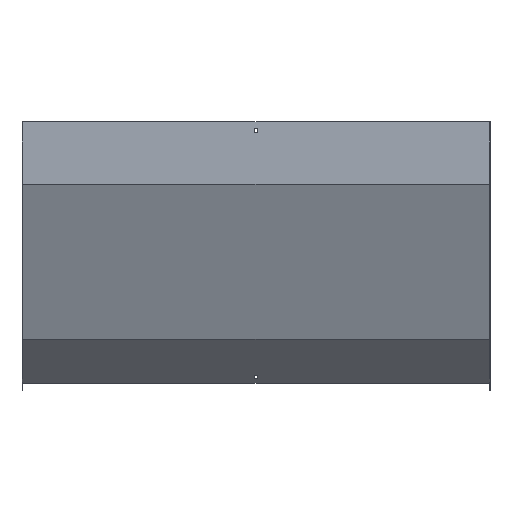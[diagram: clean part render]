
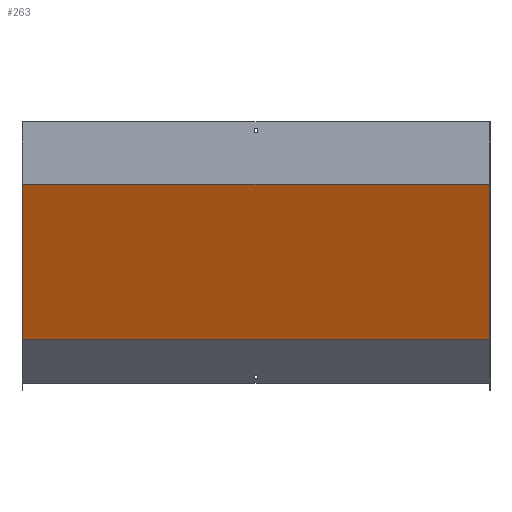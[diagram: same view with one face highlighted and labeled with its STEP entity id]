
A CAD part, front view. The second image highlights one B-rep face of the part: STEP entity #263.
In plain terms, the highlighted planar face has unit normal (0, -0.924, -0.383).
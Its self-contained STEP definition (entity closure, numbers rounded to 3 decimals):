
#15 = VECTOR ( 'NONE', #389, 1000. ) ;
#18 = ORIENTED_EDGE ( 'NONE', *, *, #816, .T. ) ;
#24 = VECTOR ( 'NONE', #199, 1000. ) ;
#29 = PLANE ( 'NONE',  #784 ) ;
#34 = DIRECTION ( 'NONE',  ( -1., 0., 0. ) ) ;
#38 = DIRECTION ( 'NONE',  ( 0., -0.383, 0.924 ) ) ;
#98 = CARTESIAN_POINT ( 'NONE',  ( 451.5, -1.5, -120.298 ) ) ;
#122 = CARTESIAN_POINT ( 'NONE',  ( 450., 122.335, -419.263 ) ) ;
#134 = VERTEX_POINT ( 'NONE', #336 ) ;
#153 = CARTESIAN_POINT ( 'NONE',  ( -450., -43.812, -18.148 ) ) ;
#187 = EDGE_CURVE ( 'NONE', #134, #454, #229, .T. ) ;
#195 = LINE ( 'NONE', #464, #15 ) ;
#199 = DIRECTION ( 'NONE',  ( -1., 0., 0. ) ) ;
#223 = VERTEX_POINT ( 'NONE', #436 ) ;
#229 = LINE ( 'NONE', #153, #424 ) ;
#263 = ADVANCED_FACE ( 'NONE', ( #350 ), #29, .F. ) ;
#267 = CARTESIAN_POINT ( 'NONE',  ( 451.5, 122.335, -419.263 ) ) ;
#271 = ORIENTED_EDGE ( 'NONE', *, *, #639, .F. ) ;
#282 = CARTESIAN_POINT ( 'NONE',  ( 451.5, -1.386, -120.574 ) ) ;
#336 = CARTESIAN_POINT ( 'NONE',  ( -450., -1.5, -120.298 ) ) ;
#350 = FACE_OUTER_BOUND ( 'NONE', #527, .T. ) ;
#389 = DIRECTION ( 'NONE',  ( 0., 0.383, -0.924 ) ) ;
#402 = LINE ( 'NONE', #267, #24 ) ;
#422 = DIRECTION ( 'NONE',  ( 0., 0.383, -0.924 ) ) ;
#424 = VECTOR ( 'NONE', #422, 1000. ) ;
#436 = CARTESIAN_POINT ( 'NONE',  ( 450., -1.5, -120.298 ) ) ;
#454 = VERTEX_POINT ( 'NONE', #736 ) ;
#464 = CARTESIAN_POINT ( 'NONE',  ( 450., -43.812, -18.148 ) ) ;
#527 = EDGE_LOOP ( 'NONE', ( #610, #271, #779, #18 ) ) ;
#569 = DIRECTION ( 'NONE',  ( 0., 0.924, 0.383 ) ) ;
#610 = ORIENTED_EDGE ( 'NONE', *, *, #187, .T. ) ;
#639 = EDGE_CURVE ( 'NONE', #667, #454, #402, .T. ) ;
#667 = VERTEX_POINT ( 'NONE', #122 ) ;
#669 = EDGE_CURVE ( 'NONE', #223, #667, #195, .T. ) ;
#694 = LINE ( 'NONE', #98, #753 ) ;
#736 = CARTESIAN_POINT ( 'NONE',  ( -450., 122.335, -419.263 ) ) ;
#753 = VECTOR ( 'NONE', #34, 1000. ) ;
#779 = ORIENTED_EDGE ( 'NONE', *, *, #669, .F. ) ;
#784 = AXIS2_PLACEMENT_3D ( 'NONE', #282, #569, #38 ) ;
#816 = EDGE_CURVE ( 'NONE', #223, #134, #694, .T. ) ;
